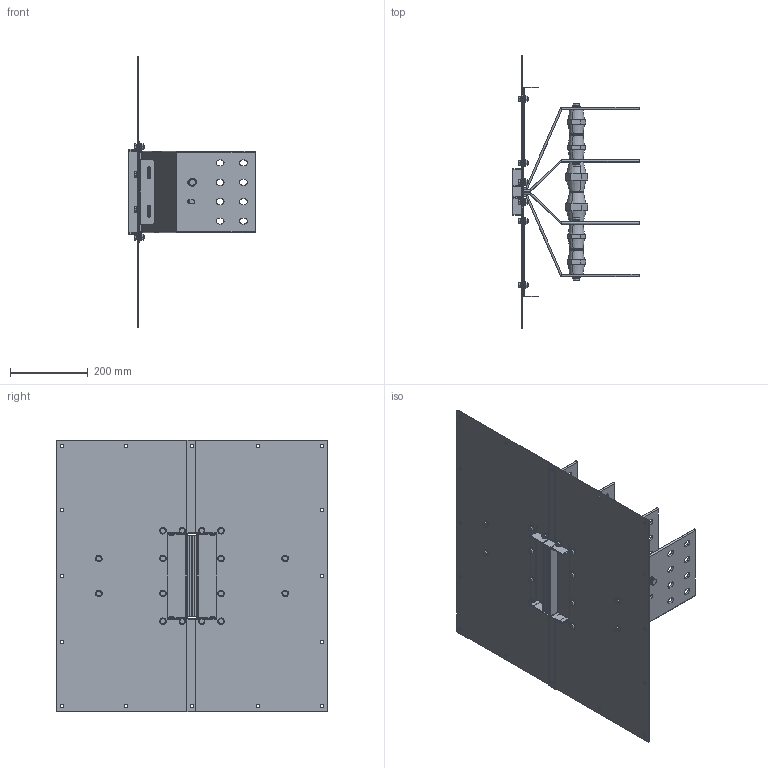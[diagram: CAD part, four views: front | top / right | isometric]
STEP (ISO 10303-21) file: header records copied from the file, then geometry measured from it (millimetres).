
FILE_DESCRIPTION(('CATIA V5 STEP','CAx-IF Rec.Pracs.--- Model Styling and Organization---1.5--- 2016-08-15','CAx-IF Rec.Pracs.---Supplemental Geometry---1.0---2011-11-01','CAx-IF Rec.Pracs.--- Composite Materials ---1.1---2010-07-15'),'2;1');
FILE_NAME('K:\COSCN 2011\32372311_RiduzioneSezioniBarre\03_Studio\__Modelli semplificati\XCP_UB semplificati per studi\XCP-S_UB_4C_Pe_CRT_Assieme\Al\XCP-S_UB_4C_Pe_S_Assieme - 2000A Al\XCP-S_UB_4C_Pe_S_Assieme - 2000A Al_CRT.stp','2025-05-12T12:33:36+00:00',('Utente Bticino'),('Bticino S.p.A.'),'CATIA Version 5-6 Release 2020 SP5','CATIA V5 STEP AP214 v2','none');
FILE_SCHEMA(('AUTOMOTIVE_DESIGN { 1 0 10303 214 1 1 1 1 }'));
Length unit declared in the file: millimetre
Products named in the file (20): XCP-S_UB_4C_Pe_S_Assieme - 2000A Al_CRT; XCP-S_UB_4C_Pe_S_PaccoBarre_2000A Al_CRT; XCP-S_UB_4C_Pe_S_Lamiere_2000A Al_CRT; 130006; 130184; 00750033 - RONDELLA PIANA 4.8 D.12 UNI 6592 ZB; Ass_M10x25.1; 00740025 M10x25 UNI5739; Rondella spac M10 UNI 1751; 00750005; 130006_1; 130184_1; 00750033 - RONDELLA PIANA 4.8 D.12 UNI 6592 ZB_1; 130006_2; 00750033 - RONDELLA PIANA 4.8 D.12 UNI 6592 ZB_2; 130006_3; Viteria UB H130; Ass Vite+dado M8; Steel hex flanged SCREW M12x16; Steel hex flanged NUT M8
Assembly tree (39 placements, depth 4):
  XCP-S_UB_4C_Pe_S_Assieme - 2000A Al_CRT
    XCP-S_UB_4C_Pe_S_PaccoBarre_2000A Al_CRT
    XCP-S_UB_4C_Pe_S_Lamiere_2000A Al_CRT
    130006
    130184
    00750033 - RONDELLA PIANA 4.8 D.12 UNI 6592 ZB
    Ass_M10x25.1  x6
      00740025 M10x25 UNI5739
      Rondella spac M10 UNI 1751
      00750005
    130006_1
    130184_1
    00750033 - RONDELLA PIANA 4.8 D.12 UNI 6592 ZB_1
    130006_2
    00750033 - RONDELLA PIANA 4.8 D.12 UNI 6592 ZB_2
    130006_3
    Viteria UB H130
      Ass Vite+dado M8  x16
        Steel hex flanged SCREW M12x16
        Steel hex flanged NUT M8
Bounding box: 325 x 700 x 700 mm (x, y, z)
Volume: 3603750 mm3; surface area: 2142493.3 mm2
Topology: 73 solids, 73 shells, 1716 faces, 4148 edges, 2616 vertices
Faces by surface type: plane 760, cylinder 516, cone 200, bspline 176, torus 64
Entity records: 25643 total; most frequent: CARTESIAN_POINT 5526, ORIENTED_EDGE 4288, DIRECTION 3378, EDGE_CURVE 2144, AXIS2_PLACEMENT_3D 1462, VERTEX_POINT 1376, VECTOR 1252, LINE 1252
